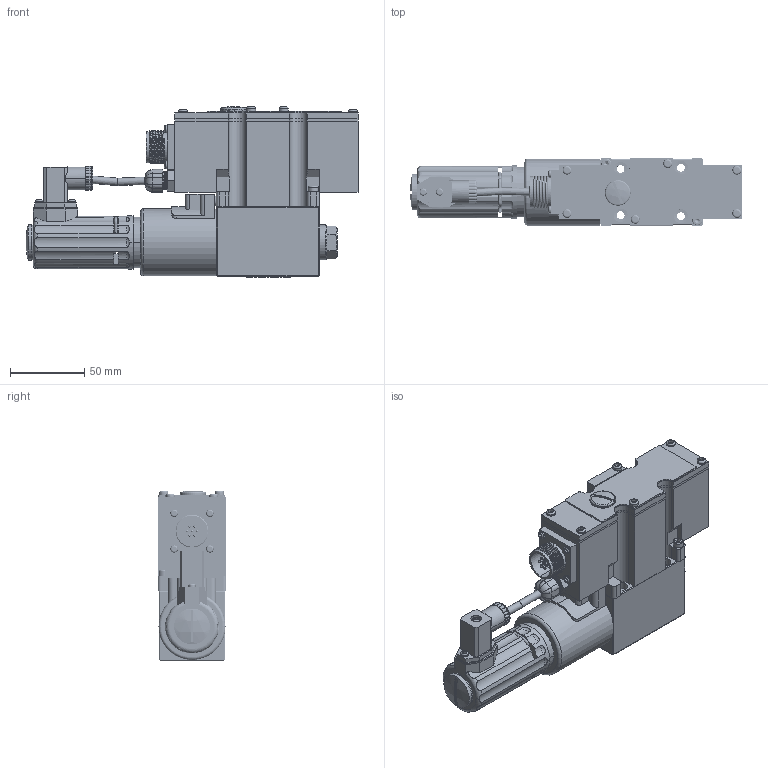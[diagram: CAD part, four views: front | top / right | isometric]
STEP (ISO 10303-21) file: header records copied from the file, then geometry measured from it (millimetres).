
FILE_DESCRIPTION(/* description */ (''),/* implementation_level */ '2;1');
FILE_NAME(/* name */ '4WREE6A-2XJ比例换向阀.prt.stp',/* time_stamp */ '2022-03-30T18:36:38+08:00',/* author */ (''),/* organization */ (''),/* preprocessor_version */ 'ST-DEVELOPER v16.7',/* originating_system */ 'SIEMENS PLM Software NX 12.0',/* authorisation */ '');
FILE_SCHEMA (('AUTOMOTIVE_DESIGN { 1 0 10303 214 3 1 1 1 }'));
Products named in the file (1): 4WREE6A-2XJ比例换向阀
Bounding box: 222.86 x 46 x 114.49 mm (x, y, z)
Volume: 438089.6 mm3; surface area: 150243.1 mm2
Topology: 30 solids, 31 shells, 1338 faces, 3304 edges, 2055 vertices
Faces by surface type: plane 561, cylinder 474, torus 111, bspline 102, cone 55, sphere 31, extrusion 4
Full cylindrical faces by diameter (mm): 1.8 x2, 2 x6, 2.5 x4, 3.2 x28, 3.6 x4, 4 x3, 5.3 x4, 5.5 x2, 6 x10, 6.78 x2, 7 x2, 8 x5, 8.1 x1, 8.7 x2, 9.4 x4, 11 x1, 12.2 x10, 12.8 x1, 14.3 x3, 14.6 x1, 14.701 x3, 14.999 x1, 16 x1, 16.999 x1, 17.2 x1, 17.4 x1, 17.8 x1, 18 x1, 18.376 x3, 19 x10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
Entity records: 99135 total; most frequent: CARTESIAN_POINT 69881, DIRECTION 5706, ORIENTED_EDGE 5640, EDGE_CURVE 2820, AXIS2_PLACEMENT_3D 2216, VERTEX_POINT 1830, EDGE_LOOP 1538, ADVANCED_FACE 1279
